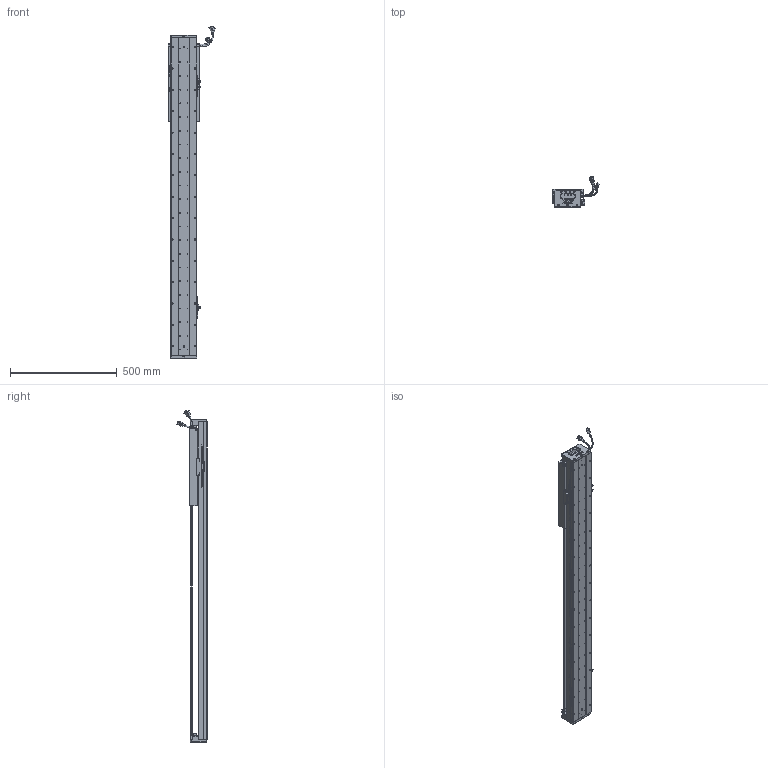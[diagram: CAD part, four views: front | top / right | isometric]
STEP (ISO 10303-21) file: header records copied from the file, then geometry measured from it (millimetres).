
FILE_DESCRIPTION (( 'STEP AP203' ), '1' );
FILE_NAME ('Z5-RY120D-1-L500-B-K.SLDASM_1050.step', '2021-05-17T06:22:17', ( '盈信电脑' ), ( '东莞市道滘镇水果街19号' ), 'SwSTEP 2.0', 'SolidWorks 2016', '' );
FILE_SCHEMA (( 'CONFIG_CONTROL_DESIGN' ));
Length unit declared in the file: millimetre
Products named in the file (37): LABEL; Z-RY120D詩湍奻揤裔; SCREW-M1.6-3; SCREW-M1.7; 榋妏寠巭燃_暯_M2_2; 120-Z-臏賑輸盄裔(21遴); PSLH080_PSLF2; Z5-RY120D-1-L500-B-K.SLDASM_1050; HARNESS-Part-2; SCREW-M1.6-1; 覜茼ん672; HARNESS; SCALE-Part-1; SEAL-Part-1; SEAL; SCALE; Z-120詩湍傷裔啣; SHIELDPLATE; COVER-Part-1; SCREW-M1.7-1; SCREW-M1.6-2; COVER; HARNESS-Part-1; 140雄赽晤鎢ん堤盄; PBU_SHEET; 672嫖萇羲壽假蚾釱; HOLDER0; SCALE-Part-2; SCREW-M1.6; Z-RY120D詩湍狟揤裔; 140蚥薯蝶輸; LABEL-Part-1; 080黍杅芛假蚾釱21遴; Z5-RY120-L500詩湍100mm遵_1050; Z5-RY120铝滑块（21款）; RY100FB-遵嫖萇覜茼え; Z5-RY120-500-倰第菁釱_1050
Assembly tree (43 placements, depth 4):
  Z5-RY120D-1-L500-B-K.SLDASM_1050
    Z5-RY120-500-倰第菁釱_1050
    覜茼ん672  x3
    672嫖萇羲壽假蚾釱  x2
    Z5-RY120铝滑块（21款）
    PSLH080_PSLF2
      SCALE
        SCALE-Part-1
        SCALE-Part-2
      HARNESS
        HARNESS-Part-1
        HARNESS-Part-2
      LABEL
        LABEL-Part-1
      COVER
        COVER-Part-1
      SEAL
        SEAL-Part-1
      榋妏寠巭燃_暯_M2_2
      SHIELDPLATE
      SCREW-M1.7
      SCREW-M1.7-1
      PBU_SHEET
      SCREW-M1.6
      SCREW-M1.6-1
      SCREW-M1.6-2
      SCREW-M1.6-3
      HOLDER0
    080黍杅芛假蚾釱21遴
    120-Z-臏賑輸盄裔(21遴)
    140雄赽晤鎢ん堤盄
    140蚥薯蝶輸  x2
    RY100FB-遵嫖萇覜茼え
    Z-120詩湍傷裔啣  x2
    Z-RY120D詩湍奻揤裔  x2
    Z-RY120D詩湍狟揤裔  x2
    Z5-RY120-L500詩湍100mm遵_1050
Bounding box: 222.86 x 140.94 x 1553.99 mm (x, y, z)
Volume: 4364146.3 mm3; surface area: 1426183.4 mm2
Topology: 38 solids, 38 shells, 3133 faces, 8613 edges, 5442 vertices
Faces by surface type: cylinder 1531, plane 1170, cone 310, torus 69, bspline 53
Entity records: 98116 total; most frequent: CARTESIAN_POINT 27465, ORIENTED_EDGE 14130, DIRECTION 13605, EDGE_CURVE 7065, AXIS2_PLACEMENT_3D 5020, VERTEX_POINT 4562, VECTOR 3565, LINE 3565
